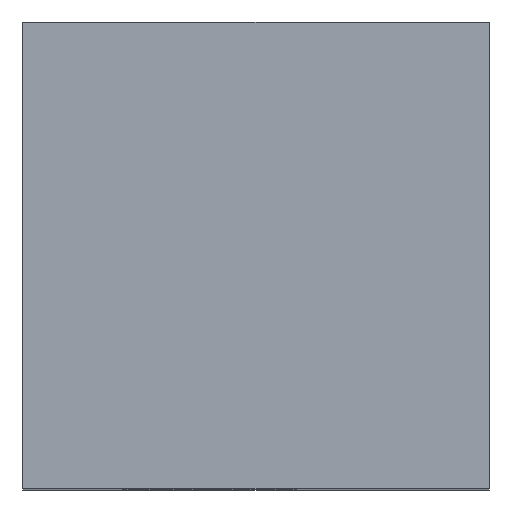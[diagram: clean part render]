
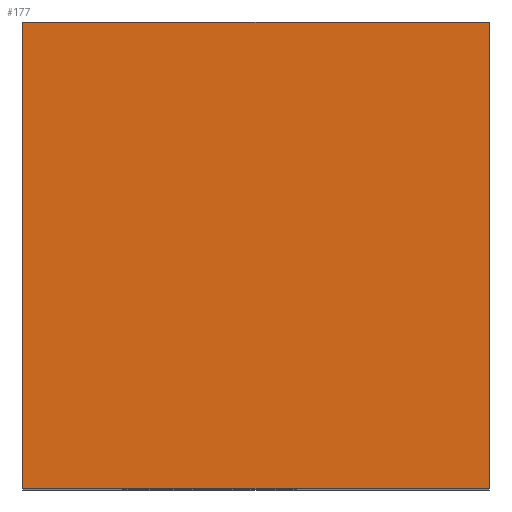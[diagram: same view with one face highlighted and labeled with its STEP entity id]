
A CAD part, top view. The second image highlights one B-rep face of the part: STEP entity #177.
In plain terms, the highlighted planar face has unit normal (0, 0, 1).
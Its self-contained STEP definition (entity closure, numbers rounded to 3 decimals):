
#49=PLANE('',#209);
#57=FACE_OUTER_BOUND('',#69,.T.);
#69=EDGE_LOOP('',(#164,#165,#166,#167));
#77=LINE('',#276,#91);
#79=LINE('',#280,#93);
#81=LINE('',#284,#95);
#83=LINE('',#287,#97);
#91=VECTOR('',#235,10.);
#93=VECTOR('',#239,10.);
#95=VECTOR('',#243,10.);
#97=VECTOR('',#247,10.);
#110=VERTEX_POINT('',#273);
#111=VERTEX_POINT('',#275);
#112=VERTEX_POINT('',#279);
#113=VERTEX_POINT('',#283);
#125=EDGE_CURVE('',#111,#110,#77,.T.);
#127=EDGE_CURVE('',#112,#111,#79,.T.);
#129=EDGE_CURVE('',#113,#112,#81,.T.);
#131=EDGE_CURVE('',#110,#113,#83,.T.);
#164=ORIENTED_EDGE('',*,*,#131,.T.);
#165=ORIENTED_EDGE('',*,*,#129,.T.);
#166=ORIENTED_EDGE('',*,*,#127,.T.);
#167=ORIENTED_EDGE('',*,*,#125,.T.);
#177=ADVANCED_FACE('',(#57),#49,.T.);
#209=AXIS2_PLACEMENT_3D('',#288,#248,#249);
#235=DIRECTION('',(0.,1.,0.));
#239=DIRECTION('',(1.,0.,0.));
#243=DIRECTION('',(0.,-1.,0.));
#247=DIRECTION('',(-1.,0.,0.));
#248=DIRECTION('center_axis',(0.,0.,1.));
#249=DIRECTION('ref_axis',(1.,0.,0.));
#273=CARTESIAN_POINT('',(2.5,2.5,4.5));
#275=CARTESIAN_POINT('',(2.5,-2.5,4.5));
#276=CARTESIAN_POINT('',(2.5,-2.5,4.5));
#279=CARTESIAN_POINT('',(-2.5,-2.5,4.5));
#280=CARTESIAN_POINT('',(-2.5,-2.5,4.5));
#283=CARTESIAN_POINT('',(-2.5,2.5,4.5));
#284=CARTESIAN_POINT('',(-2.5,2.5,4.5));
#287=CARTESIAN_POINT('',(2.5,2.5,4.5));
#288=CARTESIAN_POINT('Origin',(0.,0.,4.5));
